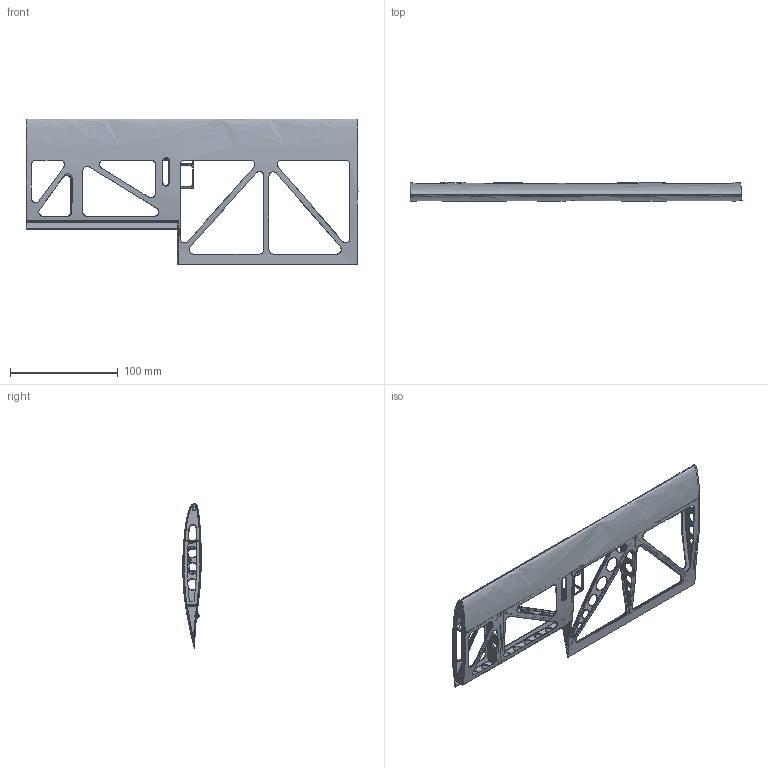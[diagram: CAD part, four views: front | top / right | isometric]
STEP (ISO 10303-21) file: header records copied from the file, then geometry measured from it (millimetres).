
FILE_DESCRIPTION (( 'STEP AP203' ), '1' );
FILE_NAME ('06-12-06-00-lower Wing(NASA-0413).STEP', '2019-02-25T09:13:36', ( '' ), ( '' ), 'SwSTEP 2.0', 'SolidWorks 2014', '' );
FILE_SCHEMA (( 'CONFIG_CONTROL_DESIGN' ));
Products named in the file (1): 06-12-06-00-lower Wing(NASA-0413)
Bounding box: 307.43 x 17.03 x 134.94 mm (x, y, z)
Volume: 37380.6 mm3; surface area: 99831 mm2
Topology: 1 solids, 1 shells, 1142 faces, 2883 edges, 1681 vertices
Faces by surface type: bspline 400, cylinder 320, torus 244, plane 132, sphere 42, cone 4
Entity records: 57620 total; most frequent: CARTESIAN_POINT 33167, ORIENTED_EDGE 5654, DIRECTION 4538, EDGE_CURVE 2827, AXIS2_PLACEMENT_3D 1956, VERTEX_POINT 1677, EDGE_LOOP 1314, CIRCLE 1213
